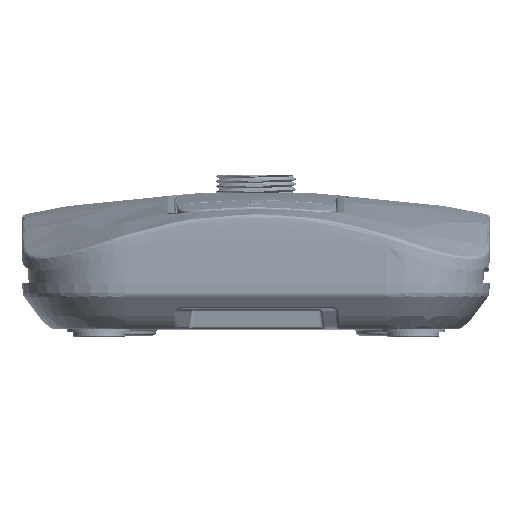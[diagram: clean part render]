
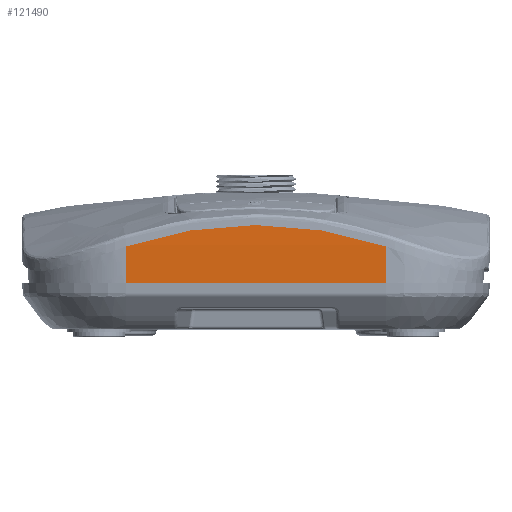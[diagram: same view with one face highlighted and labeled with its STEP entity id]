
A CAD part, front view. The second image highlights one B-rep face of the part: STEP entity #121490.
In plain terms, the highlighted cylindrical face has radius 2209.16 mm (diameter 4418.33 mm), a partial arc.
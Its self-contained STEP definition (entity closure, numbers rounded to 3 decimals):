
#108914=DIRECTION('',(0.,0.035,-0.999));
#108915=VECTOR('',#108914,8.149);
#108916=CARTESIAN_POINT('',(25.,-53.9,
116.906));
#108917=LINE('',#108916,#108915);
#108936=CARTESIAN_POINT('',(25.003,-53.616,
108.762));
#108949=CARTESIAN_POINT('',(-25.003,-53.616,
108.762));
#108950=CARTESIAN_POINT('',(-21.669,-53.578,
108.762));
#108951=CARTESIAN_POINT('',(-15.002,-53.516,
108.762));
#108952=CARTESIAN_POINT('',(-5.005,-53.472,
108.762));
#108953=CARTESIAN_POINT('',(5.002,-53.472,
108.762));
#108954=CARTESIAN_POINT('',(14.999,-53.516,
108.762));
#108955=CARTESIAN_POINT('',(21.669,-53.578,
108.762));
#108956=CARTESIAN_POINT('',(25.003,-53.616,
108.762));
#108962=DIRECTION('',(0.,-0.035,0.999));
#108963=VECTOR('',#108962,8.15);
#108964=CARTESIAN_POINT('',(-25.003,-53.616,
108.762));
#108965=LINE('',#108964,#108963);
#109563=CARTESIAN_POINT('',(-25.,-53.9,
116.907));
#109564=CARTESIAN_POINT('',(-22.309,-53.901,
117.804));
#109565=CARTESIAN_POINT('',(-16.866,-53.901,
119.298));
#109566=CARTESIAN_POINT('',(-8.474,-53.9,
120.658));
#109567=CARTESIAN_POINT('',(0.001,-53.9,
121.111));
#109568=CARTESIAN_POINT('',(8.475,-53.9,
120.656));
#109569=CARTESIAN_POINT('',(16.867,-53.901,
119.297));
#109570=CARTESIAN_POINT('',(22.31,-53.901,
117.804));
#109571=CARTESIAN_POINT('',(25.,-53.9,
116.906));
#112683=VERTEX_POINT('',#108936);
#112684=VERTEX_POINT('',#108949);
#112756=CARTESIAN_POINT('',(25.,-53.9,
116.906));
#112757=VERTEX_POINT('',#112756);
#113035=VERTEX_POINT('',#109563);
#121477=CARTESIAN_POINT('',(-0.001,-2261.718,
43.865));
#121478=DIRECTION('',(0.,-0.035,0.999));
#121479=DIRECTION('',(0.011,0.999,0.035));
#121480=AXIS2_PLACEMENT_3D('',#121477,#121478,#121479);
#121481=CYLINDRICAL_SURFACE('',#121480,2209.164);
#121482=ORIENTED_EDGE('',*,*,#121468,.T.);
#121483=ORIENTED_EDGE('',*,*,#118162,.F.);
#121485=ORIENTED_EDGE('',*,*,#121484,.T.);
#121487=ORIENTED_EDGE('',*,*,#121486,.T.);
#121488=EDGE_LOOP('',(#121482,#121483,#121485,#121487));
#121489=FACE_OUTER_BOUND('',#121488,.F.);
#121490=ADVANCED_FACE('',(#121489),#121481,.F.);
#108957=B_SPLINE_CURVE_WITH_KNOTS('',3,(#108949,#108950,#108951,#108952,#108953,
#108954,#108955,#108956),.UNSPECIFIED.,.F.,.F.,(4,1,1,1,1,4),(0.,0.2,0.4,
0.6,0.8,1.),.UNSPECIFIED.);
#109572=B_SPLINE_CURVE_WITH_KNOTS('',3,(#109563,#109564,#109565,#109566,#109567,
#109568,#109569,#109570,#109571),.UNSPECIFIED.,.F.,.F.,(4,1,1,1,1,1,4),(0.,
0.167,0.333,0.5,0.667,0.833,
1.),.UNSPECIFIED.);
#118162=EDGE_CURVE('',#112684,#112683,#108957,.T.);
#121468=EDGE_CURVE('',#112757,#112683,#108917,.T.);
#121484=EDGE_CURVE('',#112684,#113035,#108965,.T.);
#121486=EDGE_CURVE('',#113035,#112757,#109572,.T.);
